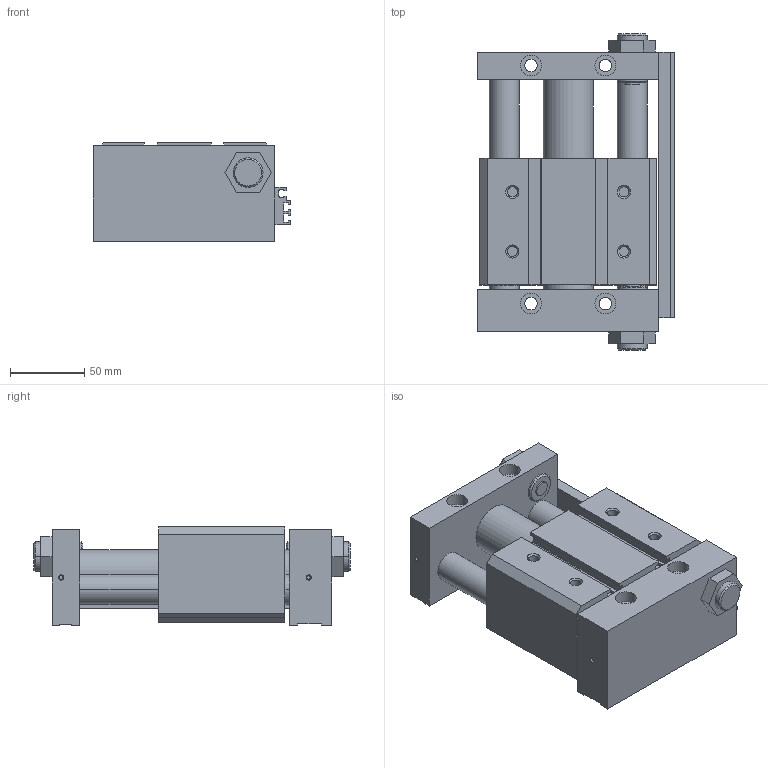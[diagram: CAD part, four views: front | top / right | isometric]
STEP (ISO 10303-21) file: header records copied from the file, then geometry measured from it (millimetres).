
FILE_DESCRIPTION((''),'2;1');
FILE_NAME('C:\Documents and Settings\Administrator\桌面\GYS\GYS32\GYSR32X50.stp','2012-03-06T20:19:19',('Administrator'),(''),'Autodesk Inventor 8','Autodesk Inventor 8','');
FILE_SCHEMA(('AUTOMOTIVE_DESIGN { 1 0 10303 214 1 1 1 1 }'));
Length unit declared in the file: millimetre
Products named in the file (3): GYSR32X50; GYS32X50; GYS32160X50
Assembly tree (2 placements, depth 2):
  GYSR32X50
    GYS32X50
    GYS32160X50
Bounding box: 132.5 x 213 x 66 mm (x, y, z)
Volume: 1066840.2 mm3; surface area: 138515.9 mm2
Topology: 2 solids, 2 shells, 291 faces, 770 edges, 504 vertices
Faces by surface type: plane 161, cylinder 96, cone 28, bspline 6
Entity records: 9200 total; most frequent: CARTESIAN_POINT 1644, DIRECTION 1598, ORIENTED_EDGE 1540, EDGE_CURVE 770, AXIS2_PLACEMENT_3D 538, VECTOR 522, LINE 522, VERTEX_POINT 504
